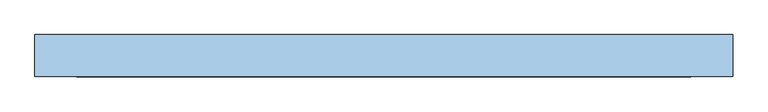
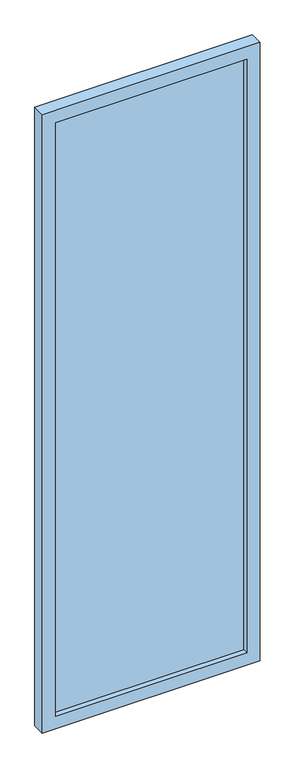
"""IFC4 building model written with IfcOpenShell, lengths in millimetres: window geometry, 固定窗-矩形- (1) : 樓梯_西面_固定窗_矩型_100 x 300cm."""

import ifcopenshell
import ifcopenshell.guid

model = None  # the IFC model being written
_history = None  # IfcOwnerHistory: only IFC2X3 demands one
_inside = {}  # id of a spatial element -> (the spatial element, [elements in it])
_under = {}  # id of a project, library or spatial element -> (it, [spatial elements below it])
_declared = {}  # id of a project -> (the project, [libraries it declares])
_typed = {}  # id of a type object -> (the type object, [elements of that type])
_made_of = {}  # id of a material, layer set ... -> (it, [elements and type objects made of it])


def new_model(schema):
    """Start an empty IFC model of exactly this schema.

    Asked for "IFC4X3", IfcOpenShell would pick the latest addendum, in which some entities
    have other attributes; the version numbers below select the first issue.
    IFC2X3 requires an IfcOwnerHistory on every rooted entity: one is made here for all.
    """
    global model, _history
    if schema == "IFC4X3":
        model = ifcopenshell.file(schema_version=(4, 3, 0, 0))
    else:
        model = ifcopenshell.file(schema=schema)
    _inside.clear()
    _under.clear()
    _declared.clear()
    _typed.clear()
    _made_of.clear()
    _history = None
    if model.schema == "IFC2X3":
        org = make("IfcOrganization", Name="unknown")
        user = make(
            "IfcPersonAndOrganization",
            ThePerson=make("IfcPerson", FamilyName="unknown"),
            TheOrganization=org,
        )
        app = make(
            "IfcApplication",
            ApplicationDeveloper=org,
            Version="unknown",
            ApplicationFullName="unknown",
            ApplicationIdentifier="unknown",
        )
        _history = make(
            "IfcOwnerHistory",
            OwningUser=user,
            OwningApplication=app,
            ChangeAction="ADDED",
            CreationDate=0,
        )
    return model


def make(cls, **values):
    """One entity of the class cls with the attributes given. An attribute that is None is left unset."""
    return model.create_entity(
        cls, **{name: value for name, value in values.items() if value is not None}
    )


def rooted(cls, **values):
    """An entity with a GlobalId (a new one), such as an element, a storey or a relation."""
    return make(cls, GlobalId=ifcopenshell.guid.new(), OwnerHistory=_history, **values)


def si_unit(unit_type, name, prefix=None):
    """IfcSIUnit, for example si_unit("LENGTHUNIT", "METRE", prefix="MILLI")."""
    return make("IfcSIUnit", UnitType=unit_type, Prefix=prefix, Name=name)


def assignment(units):
    """IfcUnitAssignment: the units of a project."""
    return None if units is None else make("IfcUnitAssignment", Units=units)


def point(xyz):
    """IfcCartesianPoint."""
    return None if xyz is None else make("IfcCartesianPoint", Coordinates=xyz)


def direction(xyz):
    """IfcDirection."""
    return None if xyz is None else make("IfcDirection", DirectionRatios=xyz)


def frame(location, z_axis=None, x_axis=None):
    """IfcAxis2Placement3D, a coordinate frame: its origin and axes. An axis left out is left unset."""
    return make(
        "IfcAxis2Placement3D",
        Location=point(location),
        Axis=direction(z_axis),
        RefDirection=direction(x_axis),
    )


def origin():
    """The frame at (0, 0, 0) with its axes left unset."""
    return frame((0.0, 0.0, 0.0))


def place(relative_to, where):
    """IfcLocalPlacement: puts the frame where relative to a parent placement (None: the world)."""
    return make(
        "IfcLocalPlacement", PlacementRelTo=relative_to, RelativePlacement=where
    )


def context(
    kind, dimensions, precision=None, world=None, true_north=None, identifier=None
):
    """IfcGeometricRepresentationContext, for example the 3D "Model" context."""
    return make(
        "IfcGeometricRepresentationContext",
        ContextIdentifier=identifier,
        ContextType=kind,
        CoordinateSpaceDimension=dimensions,
        Precision=precision,
        WorldCoordinateSystem=world,
        TrueNorth=true_north,
    )


def project(units=None, contexts=None):
    """IfcProject with its units and contexts."""
    return rooted(
        "IfcProject",
        Name="project",
        RepresentationContexts=contexts,
        UnitsInContext=assignment(units),
    )


def spatial(cls, under=None, at=None, **own):
    """A site, building, storey or space (cls), placed at a placement, below another one or the project."""
    s = rooted(cls, ObjectPlacement=at, **own)
    if under is not None:
        _under.setdefault(under.id(), (under, []))[1].append(s)
    return s


def polyline(points):
    """IfcPolyline through the points."""
    return make("IfcPolyline", Points=[point(p) for p in points])


def outline(outer, holes=None, kind="AREA"):
    """IfcArbitraryClosedProfileDef: a profile drawn as a closed curve; with holes, ...WithVoids."""
    if holes is None:
        return make("IfcArbitraryClosedProfileDef", ProfileType=kind, OuterCurve=outer)
    return make(
        "IfcArbitraryProfileDefWithVoids",
        ProfileType=kind,
        OuterCurve=outer,
        InnerCurves=holes,
    )


def extrude(swept, where, along, depth):
    """IfcExtrudedAreaSolid: the profile swept, set in the frame where, extruded along a direction by depth."""
    return make(
        "IfcExtrudedAreaSolid",
        SweptArea=swept,
        Position=where,
        ExtrudedDirection=direction(along),
        Depth=depth,
    )


def shape(context_of_items, identifier, shape_type, items):
    """IfcShapeRepresentation: the items that make up one representation, for example the "Body"."""
    return make(
        "IfcShapeRepresentation",
        ContextOfItems=context_of_items,
        RepresentationIdentifier=identifier,
        RepresentationType=shape_type,
        Items=items,
    )


def source(mapping_origin, context_of_items, identifier, shape_type, items):
    """IfcRepresentationMap: a shape defined once, which mapped items show again and again."""
    return make(
        "IfcRepresentationMap",
        MappingOrigin=mapping_origin,
        MappedRepresentation=shape(context_of_items, identifier, shape_type, items),
    )


def transform(
    local_origin,
    x_axis=None,
    y_axis=None,
    z_axis=None,
    scale=None,
    scale2=None,
    scale3=None,
    uniform=True,
):
    """IfcCartesianTransformationOperator3D, or its non-uniform kind. x_axis, y_axis, z_axis: its Axis1, 2, 3."""
    if uniform:
        return make(
            "IfcCartesianTransformationOperator3D",
            Axis1=direction(x_axis),
            Axis2=direction(y_axis),
            LocalOrigin=point(local_origin),
            Scale=scale,
            Axis3=direction(z_axis),
        )
    return make(
        "IfcCartesianTransformationOperator3DnonUniform",
        Axis1=direction(x_axis),
        Axis2=direction(y_axis),
        LocalOrigin=point(local_origin),
        Scale=scale,
        Axis3=direction(z_axis),
        Scale2=scale2,
        Scale3=scale3,
    )


def mapped(mapping_source, mapping_target):
    """IfcMappedItem: shows the shape of a source again, moved by a transform."""
    return make(
        "IfcMappedItem", MappingSource=mapping_source, MappingTarget=mapping_target
    )


def made_of(thing, what):
    """Note that an element or type object is made of a material, layer set ...; save() writes the relation."""
    if what is not None:
        _made_of.setdefault(what.id(), (what, []))[1].append(thing)
    return thing


def element(
    cls,
    number,
    at=None,
    inside=None,
    cuts=None,
    type_object=None,
    material=None,
    context=None,
    identifier="Body",
    shape_type=None,
    held_by="IfcProductDefinitionShape",
    body=None,
    shapes=None,
    **own,
):
    """One element of the class cls, such as IfcWall. Its Tag is "e" and its number.

    at: its placement. inside: the storey or other place that contains it. cuts: it is an
    opening in that element (IfcRelVoidsElement). A single representation is given by context,
    identifier, shape_type and body (its items); several are given by shapes. held_by: the class
    of the entity that holds the representations. save() writes the other relations.
    """
    e = rooted(cls, Tag="e%d" % number, ObjectPlacement=at, **own)
    if body is not None:
        shapes = [shape(context, identifier, shape_type, body)]
    if shapes is not None:
        e.Representation = make(held_by, Representations=shapes)
    if inside is not None:
        _inside.setdefault(inside.id(), (inside, []))[1].append(e)
    if cuts is not None:
        rooted(
            "IfcRelVoidsElement", RelatingBuildingElement=cuts, RelatedOpeningElement=e
        )
    if type_object is not None:
        _typed.setdefault(type_object.id(), (type_object, []))[1].append(e)
    return made_of(e, material)


def aggregate(whole, parts):
    """IfcRelAggregates: a whole, such as a stair, and the parts it consists of."""
    return rooted("IfcRelAggregates", RelatingObject=whole, RelatedObjects=parts)


def save(model, path):
    """Write the relations noted so far, then the file.

    IfcRelAggregates (storeys below a building ...), IfcRelContainedInSpatialStructure (elements
    in a storey), IfcRelDefinesByType, IfcRelAssociatesMaterial and IfcRelDeclares: one each for
    every whole, place, type object, material and project.
    """
    for whole, parts in _under.values():
        aggregate(whole, parts)
    for where, things in _inside.values():
        rooted(
            "IfcRelContainedInSpatialStructure",
            RelatedElements=things,
            RelatingStructure=where,
        )
    for kind, things in _typed.values():
        rooted("IfcRelDefinesByType", RelatedObjects=things, RelatingType=kind)
    for what, things in _made_of.values():
        rooted("IfcRelAssociatesMaterial", RelatedObjects=things, RelatingMaterial=what)
    for by, libraries in _declared.values():
        rooted("IfcRelDeclares", RelatingContext=by, RelatedDefinitions=libraries)
    model.write(path)


def window_a3bbb001(model_context):
    return source(origin(), model_context, "Body", "SweptSolid", [
        extrude(outline(polyline([(3000.0, 500.0), (3000.0, -500.0), (0.0, -500.0), (0.0, 500.0), (3000.0, 500.0)]), holes=[polyline([(2940.0, 440.0), (60.0, 440.0), (60.0, -440.0), (2940.0, -440.0), (2940.0, 440.0)])]), frame((0.0, -60.0, 0.0), z_axis=(0.0, 1.0, 0.0), x_axis=(0.0, 0.0, 1.0)), (0.0, 0.0, 1.0), 60.0),
        extrude(outline(polyline([(-440.0, -25.0), (440.0, -25.0), (440.0, -35.0), (-440.0, -35.0), (-440.0, -25.0)])), frame((0.0, 0.0, 60.0), z_axis=(0.0, 0.0, 1.0), x_axis=(1.0, 0.0, 0.0)), (0.0, 0.0, 1.0), 2880.0),
    ])


if __name__ == "__main__":
    model = new_model("IFC4")
    model_context = context("Model", 3, world=origin())
    ifc_project = project(units=[si_unit("LENGTHUNIT", "METRE", prefix="MILLI")], contexts=[model_context])
    site = spatial("IfcSite", under=ifc_project)
    building = spatial("IfcBuilding", under=site)
    placement = place(None, origin())
    window_shape = window_a3bbb001(model_context)
    element("IfcWindow", 1, ObjectType="固定窗-矩形- (1) : 樓梯_西面_固定窗_矩型_100 x 300cm", at=placement, inside=building, context=model_context, shape_type="MappedRepresentation", body=[
        mapped(window_shape, transform((0.0, 0.0, 0.0), x_axis=(1.0, 0.0, 0.0), y_axis=(0.0, 1.0, 0.0), z_axis=(0.0, 0.0, 1.0))),
    ])
    save(model, "model.ifc")
